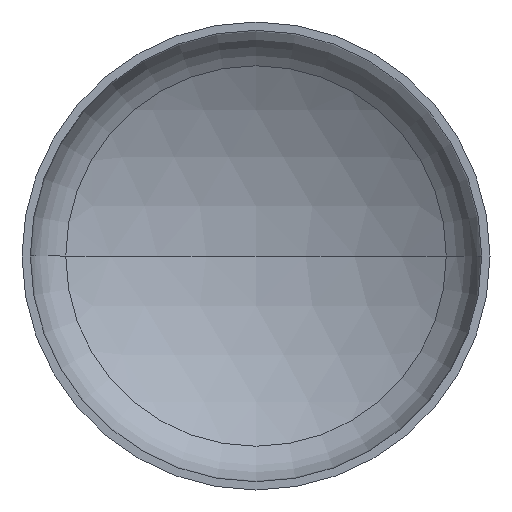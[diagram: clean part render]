
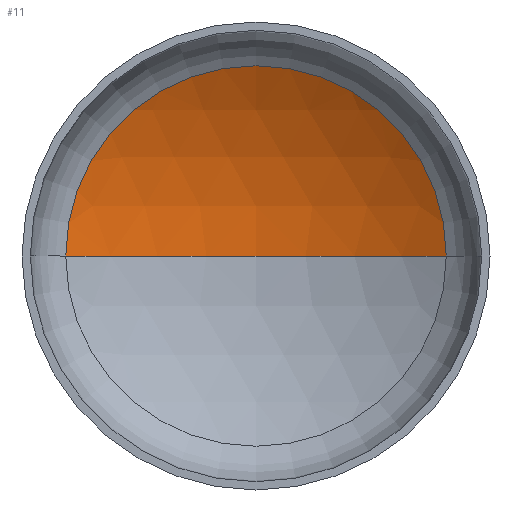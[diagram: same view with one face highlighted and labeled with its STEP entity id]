
A CAD part, front view. The second image highlights one B-rep face of the part: STEP entity #11.
In plain terms, the highlighted spherical face has radius 5200 mm.
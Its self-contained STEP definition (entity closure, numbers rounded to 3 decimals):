
#1 = DIRECTION ( 'NONE',  ( 0., -1., 0. ) ) ;
#3 = CARTESIAN_POINT ( 'NONE',  ( 0., 936.301, 0. ) ) ;
#11 = ADVANCED_FACE ( 'NONE', ( #119 ), #323, .F. ) ;
#32 = VERTEX_POINT ( 'NONE', #266 ) ;
#39 = ORIENTED_EDGE ( 'NONE', *, *, #213, .T. ) ;
#48 = ORIENTED_EDGE ( 'NONE', *, *, #215, .T. ) ;
#62 = VERTEX_POINT ( 'NONE', #264 ) ;
#67 = DIRECTION ( 'NONE',  ( 1., 0., 0. ) ) ;
#79 = ORIENTED_EDGE ( 'NONE', *, *, #218, .F. ) ;
#84 = EDGE_LOOP ( 'NONE', ( #79, #48, #39 ) ) ;
#112 = VERTEX_POINT ( 'NONE', #249 ) ;
#119 = FACE_OUTER_BOUND ( 'NONE', #84, .T. ) ;
#140 = AXIS2_PLACEMENT_3D ( 'NONE', #195, #203, #233 ) ;
#143 = AXIS2_PLACEMENT_3D ( 'NONE', #304, #328, #164 ) ;
#145 = AXIS2_PLACEMENT_3D ( 'NONE', #3, #1, #67 ) ;
#148 = CIRCLE ( 'NONE', #143, 5200. ) ;
#164 = DIRECTION ( 'NONE',  ( -1., 0., 0. ) ) ;
#181 = AXIS2_PLACEMENT_3D ( 'NONE', #270, #298, #292 ) ;
#195 = CARTESIAN_POINT ( 'NONE',  ( 0., -3542.464, 0. ) ) ;
#203 = DIRECTION ( 'NONE',  ( 0., 0., 1. ) ) ;
#213 = EDGE_CURVE ( 'NONE', #32, #62, #360, .T. ) ;
#215 = EDGE_CURVE ( 'NONE', #112, #32, #148, .T. ) ;
#218 = EDGE_CURVE ( 'NONE', #112, #62, #353, .T. ) ;
#233 = DIRECTION ( 'NONE',  ( 1., 0., 0. ) ) ;
#249 = CARTESIAN_POINT ( 'NONE',  ( 0., 1657.536, 0. ) ) ;
#264 = CARTESIAN_POINT ( 'NONE',  ( -2642.095, 936.301, 0. ) ) ;
#266 = CARTESIAN_POINT ( 'NONE',  ( 2642.095, 936.301, 0. ) ) ;
#270 = CARTESIAN_POINT ( 'NONE',  ( 0., -3542.464, 0. ) ) ;
#292 = DIRECTION ( 'NONE',  ( -1., 0., 0. ) ) ;
#298 = DIRECTION ( 'NONE',  ( 0., 0., -1. ) ) ;
#304 = CARTESIAN_POINT ( 'NONE',  ( 0., -3542.464, 0. ) ) ;
#323 = SPHERICAL_SURFACE ( 'NONE', #181, 5200. ) ;
#328 = DIRECTION ( 'NONE',  ( 0., 0., -1. ) ) ;
#353 = CIRCLE ( 'NONE', #140, 5200. ) ;
#360 = CIRCLE ( 'NONE', #145, 2642.095 ) ;
